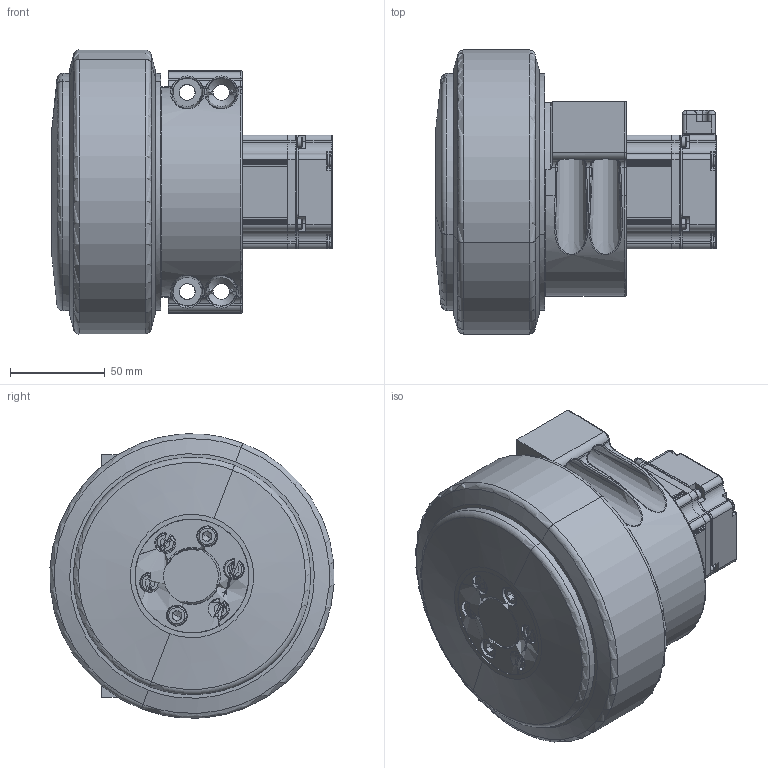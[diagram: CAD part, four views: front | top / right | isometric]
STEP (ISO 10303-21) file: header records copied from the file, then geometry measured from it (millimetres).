
FILE_DESCRIPTION (( 'STEP AP203' ), '1' );
FILE_NAME ('TEC-150P400SP.STEP', '2022-11-29T07:33:47', ( 'Admin' ), ( '' ), 'SwSTEP 2.0', 'SolidWorks 2021', '' );
FILE_SCHEMA (( 'CONFIG_CONTROL_DESIGN' ));
Products named in the file (1): TEC-150P400SP
Bounding box: 148 x 149.72 x 149.8 mm (x, y, z)
Surface area: 205203.9 mm2 (no closed solid volume)
Topology: 0 solids, 62 shells, 2088 faces, 5185 edges, 3168 vertices
Faces by surface type: cylinder 770, plane 660, cone 296, bspline 278, torus 84
Entity records: 79429 total; most frequent: CARTESIAN_POINT 32748, ORIENTED_EDGE 10018, DIRECTION 9315, EDGE_CURVE 5062, AXIS2_PLACEMENT_3D 3710, VERTEX_POINT 3143, EDGE_LOOP 2308, ADVANCED_FACE 2079
